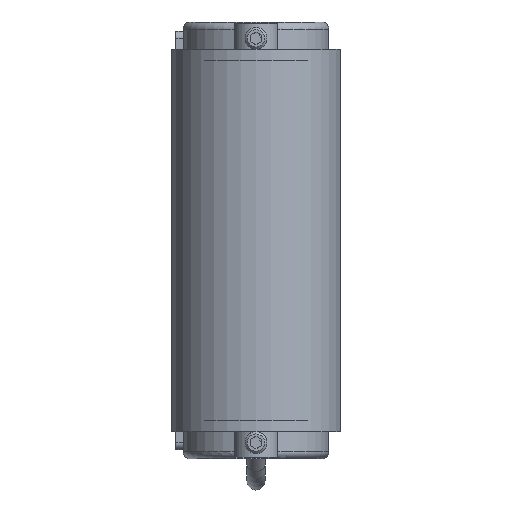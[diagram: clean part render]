
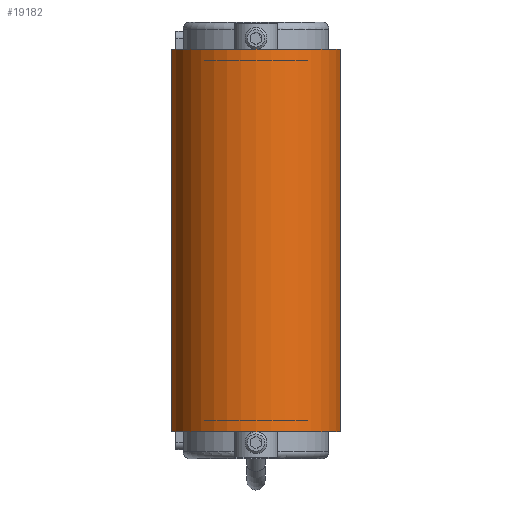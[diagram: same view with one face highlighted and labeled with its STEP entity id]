
A CAD part, front view. The second image highlights one B-rep face of the part: STEP entity #19182.
In plain terms, the highlighted cylindrical face has radius 23.3 mm (diameter 46.6 mm), a partial arc.
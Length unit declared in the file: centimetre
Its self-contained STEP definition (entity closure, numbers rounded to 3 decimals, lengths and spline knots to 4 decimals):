
#553=CYLINDRICAL_SURFACE('',#20492,2.33);
#1159=CIRCLE('',#20487,2.33);
#1162=CIRCLE('',#20493,2.33);
#1974=FACE_OUTER_BOUND('',#3017,.T.);
#3017=EDGE_LOOP('',(#12968,#12969,#12970,#12971));
#4341=LINE('',#28229,#5898);
#4342=LINE('',#28233,#5899);
#5898=VECTOR('',#23088,1.);
#5899=VECTOR('',#23093,1.);
#7615=VERTEX_POINT('',#28212);
#7616=VERTEX_POINT('',#28213);
#7621=VERTEX_POINT('',#28227);
#7622=VERTEX_POINT('',#28231);
#9697=EDGE_CURVE('',#7615,#7616,#1159,.T.);
#9705=EDGE_CURVE('',#7621,#7616,#4341,.T.);
#9706=EDGE_CURVE('',#7621,#7622,#1162,.T.);
#9707=EDGE_CURVE('',#7615,#7622,#4342,.T.);
#12968=ORIENTED_EDGE('',*,*,#9706,.T.);
#12969=ORIENTED_EDGE('',*,*,#9707,.F.);
#12970=ORIENTED_EDGE('',*,*,#9697,.T.);
#12971=ORIENTED_EDGE('',*,*,#9705,.F.);
#19182=ADVANCED_FACE('',(#1974),#553,.T.);
#20487=AXIS2_PLACEMENT_3D('',#28214,#23073,#23074);
#20492=AXIS2_PLACEMENT_3D('',#28230,#23089,#23090);
#20493=AXIS2_PLACEMENT_3D('',#28232,#23091,#23092);
#23073=DIRECTION('center_axis',(0.,0.,
-1.));
#23074=DIRECTION('ref_axis',(-1.,0.,0.));
#23088=DIRECTION('',(0.,0.,1.));
#23089=DIRECTION('center_axis',(0.,0.,
-1.));
#23090=DIRECTION('ref_axis',(-1.,0.,0.));
#23091=DIRECTION('center_axis',(0.,0.,
1.));
#23092=DIRECTION('ref_axis',(-1.,0.,0.));
#23093=DIRECTION('',(0.,0.,-1.));
#28212=CARTESIAN_POINT('',(2.33,-22.,5.25));
#28213=CARTESIAN_POINT('',(-2.33,-22.,5.25));
#28214=CARTESIAN_POINT('Origin',(0.,-22.,5.25));
#28227=CARTESIAN_POINT('',(-2.33,-22.,-5.25));
#28229=CARTESIAN_POINT('',(-2.33,-22.,0.));
#28230=CARTESIAN_POINT('Origin',(0.,-22.,0.));
#28231=CARTESIAN_POINT('',(2.33,-22.,-5.25));
#28232=CARTESIAN_POINT('Origin',(0.,-22.,-5.25));
#28233=CARTESIAN_POINT('',(2.33,-22.,0.));
